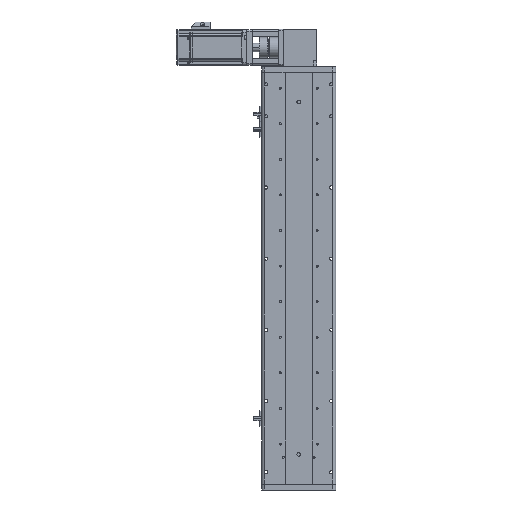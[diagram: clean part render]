
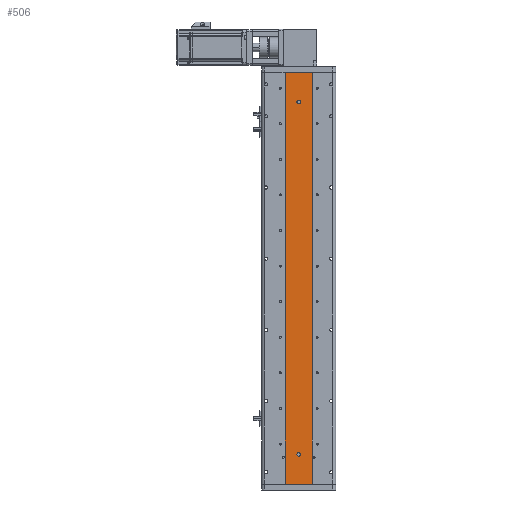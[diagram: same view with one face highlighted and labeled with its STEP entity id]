
A CAD part, front view. The second image highlights one B-rep face of the part: STEP entity #506.
In plain terms, the highlighted planar face has unit normal (0, -1, 0).
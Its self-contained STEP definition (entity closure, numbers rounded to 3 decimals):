
#506 = ADVANCED_FACE ( 'NONE', ( #48844, #35858, #912 ), #53918, .F. ) ;
#581 = DIRECTION ( 'NONE',  ( 0., 0., -1. ) ) ;
#872 = DIRECTION ( 'NONE',  ( 0., 0., -1. ) ) ;
#912 = FACE_OUTER_BOUND ( 'NONE', #38381, .T. ) ;
#3101 = DIRECTION ( 'NONE',  ( 1., 0., 0. ) ) ;
#3153 = CARTESIAN_POINT ( 'NONE',  ( 23., 1., 347.001 ) ) ;
#4404 = AXIS2_PLACEMENT_3D ( 'NONE', #40261, #12518, #44930 ) ;
#5969 = EDGE_CURVE ( 'NONE', #56058, #46107, #58174, .T. ) ;
#7736 = EDGE_CURVE ( 'NONE', #8241, #53072, #54200, .T. ) ;
#7832 = DIRECTION ( 'NONE',  ( 0., 1., 0. ) ) ;
#8241 = VERTEX_POINT ( 'NONE', #8852 ) ;
#8852 = CARTESIAN_POINT ( 'NONE',  ( -23., 1., 347. ) ) ;
#9510 = VECTOR ( 'NONE', #3101, 1000. ) ;
#10244 = EDGE_CURVE ( 'NONE', #54565, #15306, #18467, .T. ) ;
#12518 = DIRECTION ( 'NONE',  ( 0., -1., 0. ) ) ;
#12973 = CARTESIAN_POINT ( 'NONE',  ( 0., 1., 294. ) ) ;
#13130 = DIRECTION ( 'NONE',  ( 0., -1., 0. ) ) ;
#13299 = EDGE_CURVE ( 'NONE', #15306, #54565, #39419, .T. ) ;
#15306 = VERTEX_POINT ( 'NONE', #18667 ) ;
#15374 = AXIS2_PLACEMENT_3D ( 'NONE', #20979, #53389, #25596 ) ;
#15589 = CARTESIAN_POINT ( 'NONE',  ( -23., 1., 347.001 ) ) ;
#15897 = ORIENTED_EDGE ( 'NONE', *, *, #13299, .F. ) ;
#16561 = AXIS2_PLACEMENT_3D ( 'NONE', #40868, #13130, #45542 ) ;
#18467 = CIRCLE ( 'NONE', #42049, 3. ) ;
#18667 = CARTESIAN_POINT ( 'NONE',  ( 0., 1., 300. ) ) ;
#19661 = CARTESIAN_POINT ( 'NONE',  ( 23., 1., -347. ) ) ;
#20979 = CARTESIAN_POINT ( 'NONE',  ( 0., 1., 297. ) ) ;
#21606 = CARTESIAN_POINT ( 'NONE',  ( 23., 1., 347. ) ) ;
#21879 = LINE ( 'NONE', #21606, #9510 ) ;
#23926 = ORIENTED_EDGE ( 'NONE', *, *, #29280, .F. ) ;
#25352 = EDGE_LOOP ( 'NONE', ( #57356, #15897 ) ) ;
#25456 = EDGE_LOOP ( 'NONE', ( #27852, #58094 ) ) ;
#25596 = DIRECTION ( 'NONE',  ( 0., 0., -1. ) ) ;
#27852 = ORIENTED_EDGE ( 'NONE', *, *, #57807, .F. ) ;
#28405 = DIRECTION ( 'NONE',  ( 0., -1., 0. ) ) ;
#28539 = CARTESIAN_POINT ( 'NONE',  ( 0., 1., -300. ) ) ;
#29280 = EDGE_CURVE ( 'NONE', #8241, #60165, #21879, .T. ) ;
#29484 = VECTOR ( 'NONE', #48195, 1000. ) ;
#30968 = CIRCLE ( 'NONE', #16561, 3. ) ;
#32289 = EDGE_CURVE ( 'NONE', #60165, #53000, #52593, .T. ) ;
#34167 = ORIENTED_EDGE ( 'NONE', *, *, #32289, .F. ) ;
#35858 = FACE_BOUND ( 'NONE', #25456, .T. ) ;
#38381 = EDGE_LOOP ( 'NONE', ( #45357, #45589, #34167, #23926 ) ) ;
#39099 = LINE ( 'NONE', #52807, #50028 ) ;
#39419 = CIRCLE ( 'NONE', #15374, 3. ) ;
#40261 = CARTESIAN_POINT ( 'NONE',  ( 0., 1., -297. ) ) ;
#40278 = DIRECTION ( 'NONE',  ( 0., 0., 1. ) ) ;
#40868 = CARTESIAN_POINT ( 'NONE',  ( 0., 1., -297. ) ) ;
#42049 = AXIS2_PLACEMENT_3D ( 'NONE', #56250, #28405, #581 ) ;
#42820 = CARTESIAN_POINT ( 'NONE',  ( 23., 1., 347. ) ) ;
#43490 = DIRECTION ( 'NONE',  ( 1., 0., 0. ) ) ;
#43715 = CARTESIAN_POINT ( 'NONE',  ( 0., 1., -294. ) ) ;
#44930 = DIRECTION ( 'NONE',  ( 0., 0., -1. ) ) ;
#45357 = ORIENTED_EDGE ( 'NONE', *, *, #7736, .T. ) ;
#45542 = DIRECTION ( 'NONE',  ( 0., 0., -1. ) ) ;
#45589 = ORIENTED_EDGE ( 'NONE', *, *, #47436, .T. ) ;
#46107 = VERTEX_POINT ( 'NONE', #28539 ) ;
#47436 = EDGE_CURVE ( 'NONE', #53072, #53000, #39099, .T. ) ;
#48195 = DIRECTION ( 'NONE',  ( 0., 0., -1. ) ) ;
#48844 = FACE_BOUND ( 'NONE', #25352, .T. ) ;
#50028 = VECTOR ( 'NONE', #43490, 1000. ) ;
#51149 = VECTOR ( 'NONE', #872, 1000. ) ;
#52565 = AXIS2_PLACEMENT_3D ( 'NONE', #3153, #7832, #40278 ) ;
#52593 = LINE ( 'NONE', #56536, #51149 ) ;
#52807 = CARTESIAN_POINT ( 'NONE',  ( 23., 1., -347. ) ) ;
#53000 = VERTEX_POINT ( 'NONE', #19661 ) ;
#53072 = VERTEX_POINT ( 'NONE', #57172 ) ;
#53389 = DIRECTION ( 'NONE',  ( 0., -1., 0. ) ) ;
#53918 = PLANE ( 'NONE',  #52565 ) ;
#54200 = LINE ( 'NONE', #15589, #29484 ) ;
#54565 = VERTEX_POINT ( 'NONE', #12973 ) ;
#56058 = VERTEX_POINT ( 'NONE', #43715 ) ;
#56250 = CARTESIAN_POINT ( 'NONE',  ( 0., 1., 297. ) ) ;
#56536 = CARTESIAN_POINT ( 'NONE',  ( 23., 1., 347.001 ) ) ;
#57172 = CARTESIAN_POINT ( 'NONE',  ( -23., 1., -347. ) ) ;
#57356 = ORIENTED_EDGE ( 'NONE', *, *, #10244, .F. ) ;
#57807 = EDGE_CURVE ( 'NONE', #46107, #56058, #30968, .T. ) ;
#58094 = ORIENTED_EDGE ( 'NONE', *, *, #5969, .F. ) ;
#58174 = CIRCLE ( 'NONE', #4404, 3. ) ;
#60165 = VERTEX_POINT ( 'NONE', #42820 ) ;
